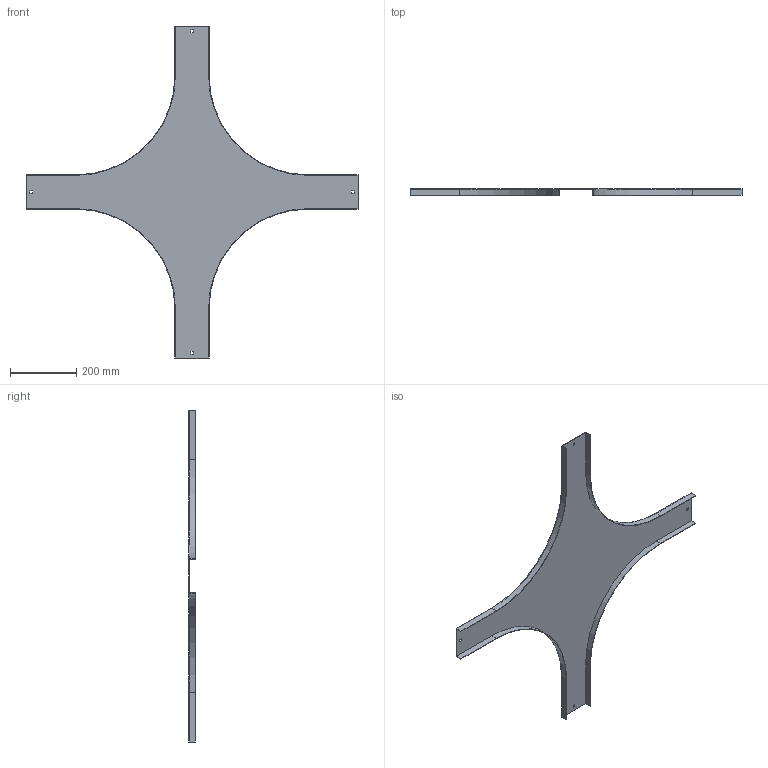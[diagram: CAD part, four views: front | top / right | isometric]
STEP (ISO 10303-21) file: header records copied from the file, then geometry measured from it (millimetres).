
FILE_DESCRIPTION (( 'STEP AP214' ), '1' );
FILE_NAME ('A2_17N3R100.step', '2025-02-21T12:08:02', ( '' ), ( '' ), 'SwSTEP 2.0', 'SolidWorks 2023', '' );
FILE_SCHEMA (( 'AUTOMOTIVE_DESIGN' ));
Length unit declared in the file: millimetre
Products named in the file (1): A2_17N3R100
Bounding box: 1000 x 20 x 1000 mm (x, y, z)
Volume: 492941.3 mm3; surface area: 662894.3 mm2
Topology: 1 solids, 1 shells, 50 faces, 144 edges, 96 vertices
Faces by surface type: plane 42, cylinder 8
Entity records: 1663 total; most frequent: CARTESIAN_POINT 291, ORIENTED_EDGE 288, DIRECTION 262, EDGE_CURVE 144, LINE 128, VECTOR 128, VERTEX_POINT 96, AXIS2_PLACEMENT_3D 67
